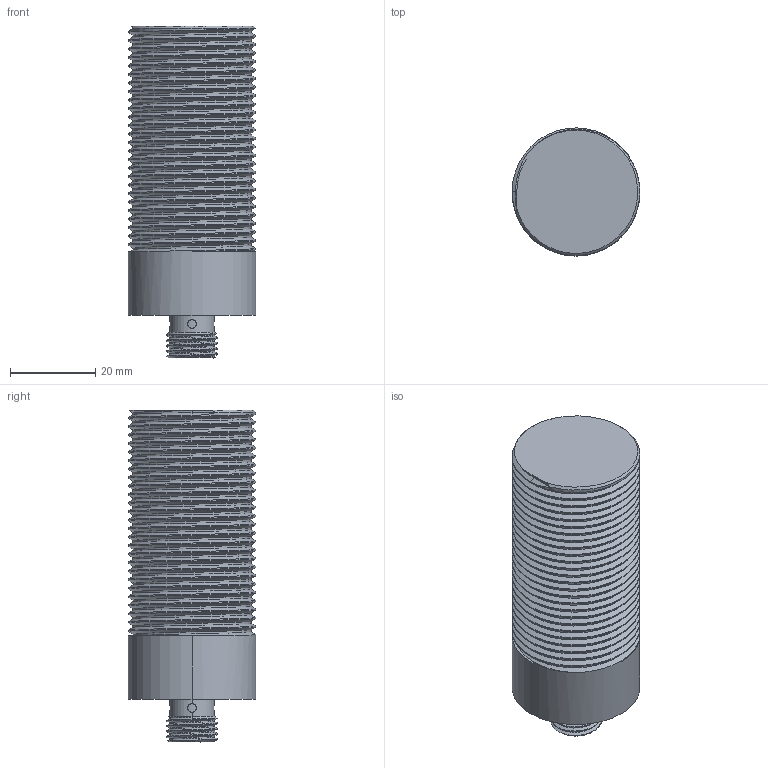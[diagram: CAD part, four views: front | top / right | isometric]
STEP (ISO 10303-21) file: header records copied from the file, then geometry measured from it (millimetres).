
FILE_DESCRIPTION (( 'STEP AP214' ), '1' );
FILE_NAME ('4.BIS6N60.STEP', '2024-11-19T03:01:30', ( '' ), ( '' ), 'SwSTEP 2.0', 'SolidWorks 2022', '' );
FILE_SCHEMA (( 'AUTOMOTIVE_DESIGN' ));
Length unit declared in the file: millimetre
Products named in the file (1): 4.BIS6N60
Bounding box: 30 x 30 x 78 mm (x, y, z)
Volume: 45694.4 mm3; surface area: 11368 mm2
Topology: 1 solids, 1 shells, 121 faces, 331 edges, 213 vertices
Faces by surface type: cylinder 90, plane 12, sphere 8, bspline 6, cone 5
Entity records: 10726 total; most frequent: CARTESIAN_POINT 8135, ORIENTED_EDGE 630, DIRECTION 435, EDGE_CURVE 315, VERTEX_POINT 205, AXIS2_PLACEMENT_3D 167, EDGE_LOOP 130, FACE_OUTER_BOUND 121
